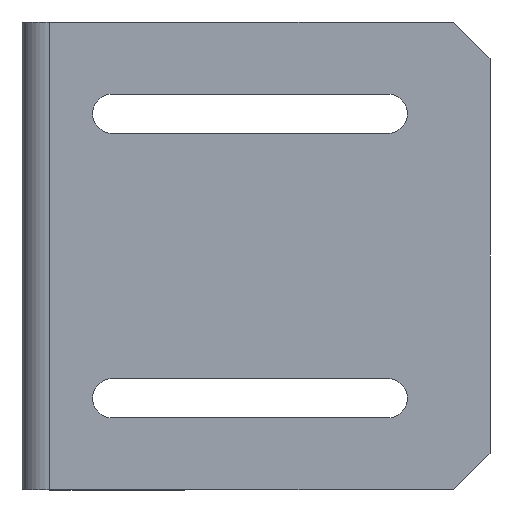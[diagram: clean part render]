
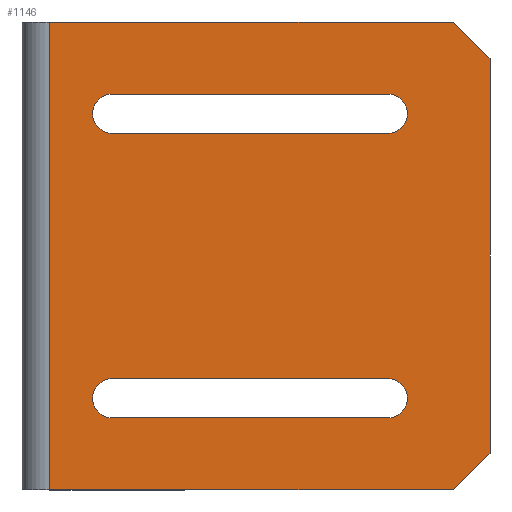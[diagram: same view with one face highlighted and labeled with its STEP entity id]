
A CAD part, front view. The second image highlights one B-rep face of the part: STEP entity #1146.
In plain terms, the highlighted planar face has unit normal (0, -1, 0).
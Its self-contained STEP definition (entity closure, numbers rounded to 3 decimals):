
#14 = AXIS2_PLACEMENT_3D ( 'NONE', #462, #977, #661 ) ;
#16 = EDGE_CURVE ( 'NONE', #1310, #1048, #421, .T. ) ;
#25 = ORIENTED_EDGE ( 'NONE', *, *, #94, .T. ) ;
#31 = ORIENTED_EDGE ( 'NONE', *, *, #666, .T. ) ;
#35 = LINE ( 'NONE', #1275, #343 ) ;
#40 = AXIS2_PLACEMENT_3D ( 'NONE', #281, #95, #489 ) ;
#49 = EDGE_CURVE ( 'NONE', #1347, #839, #553, .T. ) ;
#65 = EDGE_LOOP ( 'NONE', ( #31, #585, #251, #99, #1032 ) ) ;
#74 = LINE ( 'NONE', #179, #212 ) ;
#82 = AXIS2_PLACEMENT_3D ( 'NONE', #1192, #674, #460 ) ;
#90 = CARTESIAN_POINT ( 'NONE',  ( 39.85, 0., -12.15 ) ) ;
#91 = CARTESIAN_POINT ( 'NONE',  ( 47., 0., 0. ) ) ;
#94 = EDGE_CURVE ( 'NONE', #893, #1347, #716, .T. ) ;
#95 = DIRECTION ( 'NONE',  ( 0., 1., 0. ) ) ;
#99 = ORIENTED_EDGE ( 'NONE', *, *, #16, .T. ) ;
#104 = EDGE_CURVE ( 'NONE', #958, #626, #655, .T. ) ;
#122 = DIRECTION ( 'NONE',  ( 0., 0., 1. ) ) ;
#123 = CARTESIAN_POINT ( 'NONE',  ( 3., 0., -51. ) ) ;
#129 = ORIENTED_EDGE ( 'NONE', *, *, #264, .T. ) ;
#130 = VECTOR ( 'NONE', #135, 1000. ) ;
#133 = CARTESIAN_POINT ( 'NONE',  ( 9.85, 0., -7.85 ) ) ;
#135 = DIRECTION ( 'NONE',  ( -1., 0., 0. ) ) ;
#139 = LINE ( 'NONE', #742, #355 ) ;
#141 = CARTESIAN_POINT ( 'NONE',  ( 39.85, 0., -7.85 ) ) ;
#179 = CARTESIAN_POINT ( 'NONE',  ( 51., 0., 0. ) ) ;
#184 = ORIENTED_EDGE ( 'NONE', *, *, #1169, .T. ) ;
#186 = VERTEX_POINT ( 'NONE', #1221 ) ;
#191 = ORIENTED_EDGE ( 'NONE', *, *, #571, .T. ) ;
#194 = EDGE_CURVE ( 'NONE', #1105, #401, #641, .T. ) ;
#212 = VECTOR ( 'NONE', #917, 1000. ) ;
#213 = EDGE_CURVE ( 'NONE', #871, #617, #74, .T. ) ;
#228 = AXIS2_PLACEMENT_3D ( 'NONE', #1065, #334, #347 ) ;
#245 = VECTOR ( 'NONE', #751, 1000. ) ;
#251 = ORIENTED_EDGE ( 'NONE', *, *, #797, .T. ) ;
#264 = EDGE_CURVE ( 'NONE', #626, #893, #812, .T. ) ;
#281 = CARTESIAN_POINT ( 'NONE',  ( 9.85, 0., -10. ) ) ;
#283 = EDGE_CURVE ( 'NONE', #839, #958, #1266, .T. ) ;
#310 = DIRECTION ( 'NONE',  ( 1., 0., 0. ) ) ;
#334 = DIRECTION ( 'NONE',  ( 0., 1., 0. ) ) ;
#343 = VECTOR ( 'NONE', #744, 1000. ) ;
#347 = DIRECTION ( 'NONE',  ( -1., 0., 0. ) ) ;
#350 = AXIS2_PLACEMENT_3D ( 'NONE', #1087, #524, #1147 ) ;
#355 = VECTOR ( 'NONE', #750, 1000. ) ;
#401 = VERTEX_POINT ( 'NONE', #133 ) ;
#421 = CIRCLE ( 'NONE', #228, 2.15 ) ;
#422 = CARTESIAN_POINT ( 'NONE',  ( 9.85, 0., -43.15 ) ) ;
#430 = ORIENTED_EDGE ( 'NONE', *, *, #1248, .T. ) ;
#434 = CARTESIAN_POINT ( 'NONE',  ( 74.5, 0., -27.5 ) ) ;
#439 = FACE_OUTER_BOUND ( 'NONE', #1103, .T. ) ;
#440 = ORIENTED_EDGE ( 'NONE', *, *, #710, .T. ) ;
#460 = DIRECTION ( 'NONE',  ( 1., 0., 0. ) ) ;
#462 = CARTESIAN_POINT ( 'NONE',  ( 51., 0., -51. ) ) ;
#469 = VECTOR ( 'NONE', #1084, 1000. ) ;
#489 = DIRECTION ( 'NONE',  ( -1., 0., 0. ) ) ;
#495 = VERTEX_POINT ( 'NONE', #1355 ) ;
#515 = CARTESIAN_POINT ( 'NONE',  ( 51., 0., -51. ) ) ;
#524 = DIRECTION ( 'NONE',  ( 0., 1., 0. ) ) ;
#546 = LINE ( 'NONE', #563, #245 ) ;
#553 = LINE ( 'NONE', #1171, #469 ) ;
#563 = CARTESIAN_POINT ( 'NONE',  ( 9.85, 0., -12.15 ) ) ;
#565 = EDGE_CURVE ( 'NONE', #495, #1239, #1269, .T. ) ;
#566 = FACE_BOUND ( 'NONE', #1120, .T. ) ;
#571 = EDGE_CURVE ( 'NONE', #818, #617, #1250, .T. ) ;
#573 = VECTOR ( 'NONE', #122, 1000. ) ;
#582 = CARTESIAN_POINT ( 'NONE',  ( 9.85, 0., -38.85 ) ) ;
#585 = ORIENTED_EDGE ( 'NONE', *, *, #194, .T. ) ;
#596 = VECTOR ( 'NONE', #952, 1000. ) ;
#599 = ORIENTED_EDGE ( 'NONE', *, *, #104, .T. ) ;
#617 = VERTEX_POINT ( 'NONE', #91 ) ;
#626 = VERTEX_POINT ( 'NONE', #422 ) ;
#641 = CIRCLE ( 'NONE', #40, 2.15 ) ;
#652 = AXIS2_PLACEMENT_3D ( 'NONE', #835, #1139, #1145 ) ;
#655 = LINE ( 'NONE', #776, #130 ) ;
#661 = DIRECTION ( 'NONE',  ( 1., 0., 0. ) ) ;
#666 = EDGE_CURVE ( 'NONE', #186, #1105, #834, .T. ) ;
#673 = CARTESIAN_POINT ( 'NONE',  ( 39.85, 0., -43.15 ) ) ;
#674 = DIRECTION ( 'NONE',  ( 0., 1., 0. ) ) ;
#685 = ORIENTED_EDGE ( 'NONE', *, *, #49, .T. ) ;
#702 = ORIENTED_EDGE ( 'NONE', *, *, #565, .T. ) ;
#703 = CARTESIAN_POINT ( 'NONE',  ( 51., 0., -47. ) ) ;
#710 = EDGE_CURVE ( 'NONE', #980, #818, #765, .T. ) ;
#716 = CIRCLE ( 'NONE', #82, 2.15 ) ;
#737 = VECTOR ( 'NONE', #873, 1000. ) ;
#742 = CARTESIAN_POINT ( 'NONE',  ( 49., 0., -49. ) ) ;
#744 = DIRECTION ( 'NONE',  ( 1., 0., 0. ) ) ;
#750 = DIRECTION ( 'NONE',  ( 0.707, 0., 0.707 ) ) ;
#751 = DIRECTION ( 'NONE',  ( -1., 0., 0. ) ) ;
#765 = LINE ( 'NONE', #860, #573 ) ;
#766 = EDGE_CURVE ( 'NONE', #1048, #186, #546, .T. ) ;
#769 = AXIS2_PLACEMENT_3D ( 'NONE', #844, #882, #310 ) ;
#776 = CARTESIAN_POINT ( 'NONE',  ( 9.85, 0., -43.15 ) ) ;
#797 = EDGE_CURVE ( 'NONE', #401, #1310, #35, .T. ) ;
#812 = CIRCLE ( 'NONE', #769, 2.15 ) ;
#818 = VERTEX_POINT ( 'NONE', #1064 ) ;
#834 = CIRCLE ( 'NONE', #652, 2.15 ) ;
#835 = CARTESIAN_POINT ( 'NONE',  ( 9.85, 0., -10. ) ) ;
#839 = VERTEX_POINT ( 'NONE', #1211 ) ;
#844 = CARTESIAN_POINT ( 'NONE',  ( 9.85, 0., -41. ) ) ;
#860 = CARTESIAN_POINT ( 'NONE',  ( 51., 0., -51. ) ) ;
#871 = VERTEX_POINT ( 'NONE', #1312 ) ;
#873 = DIRECTION ( 'NONE',  ( 0., 0., -1. ) ) ;
#882 = DIRECTION ( 'NONE',  ( 0., 1., 0. ) ) ;
#893 = VERTEX_POINT ( 'NONE', #1316 ) ;
#917 = DIRECTION ( 'NONE',  ( 1., 0., 0. ) ) ;
#952 = DIRECTION ( 'NONE',  ( 1., 0., 0. ) ) ;
#958 = VERTEX_POINT ( 'NONE', #673 ) ;
#961 = DIRECTION ( 'NONE',  ( -0.707, 0., 0.707 ) ) ;
#974 = ORIENTED_EDGE ( 'NONE', *, *, #283, .T. ) ;
#977 = DIRECTION ( 'NONE',  ( 0., -1., 0. ) ) ;
#980 = VERTEX_POINT ( 'NONE', #703 ) ;
#981 = FACE_BOUND ( 'NONE', #65, .T. ) ;
#1032 = ORIENTED_EDGE ( 'NONE', *, *, #766, .T. ) ;
#1033 = CARTESIAN_POINT ( 'NONE',  ( 7.7, 0., -10. ) ) ;
#1048 = VERTEX_POINT ( 'NONE', #90 ) ;
#1064 = CARTESIAN_POINT ( 'NONE',  ( 51., 0., -4. ) ) ;
#1065 = CARTESIAN_POINT ( 'NONE',  ( 39.85, 0., -10. ) ) ;
#1073 = LINE ( 'NONE', #123, #737 ) ;
#1084 = DIRECTION ( 'NONE',  ( 1., 0., 0. ) ) ;
#1087 = CARTESIAN_POINT ( 'NONE',  ( 39.85, 0., -41. ) ) ;
#1103 = EDGE_LOOP ( 'NONE', ( #1314, #184, #702, #430, #440, #191 ) ) ;
#1105 = VERTEX_POINT ( 'NONE', #1033 ) ;
#1120 = EDGE_LOOP ( 'NONE', ( #129, #25, #685, #974, #599 ) ) ;
#1139 = DIRECTION ( 'NONE',  ( 0., 1., 0. ) ) ;
#1145 = DIRECTION ( 'NONE',  ( -1., 0., 0. ) ) ;
#1146 = ADVANCED_FACE ( 'NONE', ( #439, #981, #566 ), #1160, .T. ) ;
#1147 = DIRECTION ( 'NONE',  ( 1., 0., 0. ) ) ;
#1160 = PLANE ( 'NONE',  #14 ) ;
#1169 = EDGE_CURVE ( 'NONE', #871, #495, #1073, .T. ) ;
#1171 = CARTESIAN_POINT ( 'NONE',  ( 9.85, 0., -38.85 ) ) ;
#1174 = CARTESIAN_POINT ( 'NONE',  ( 47., 0., -51. ) ) ;
#1192 = CARTESIAN_POINT ( 'NONE',  ( 9.85, 0., -41. ) ) ;
#1211 = CARTESIAN_POINT ( 'NONE',  ( 39.85, 0., -38.85 ) ) ;
#1221 = CARTESIAN_POINT ( 'NONE',  ( 9.85, 0., -12.15 ) ) ;
#1239 = VERTEX_POINT ( 'NONE', #1174 ) ;
#1248 = EDGE_CURVE ( 'NONE', #1239, #980, #139, .T. ) ;
#1250 = LINE ( 'NONE', #434, #1353 ) ;
#1266 = CIRCLE ( 'NONE', #350, 2.15 ) ;
#1269 = LINE ( 'NONE', #515, #596 ) ;
#1275 = CARTESIAN_POINT ( 'NONE',  ( 9.85, 0., -7.85 ) ) ;
#1310 = VERTEX_POINT ( 'NONE', #141 ) ;
#1312 = CARTESIAN_POINT ( 'NONE',  ( 3., 0., 0. ) ) ;
#1314 = ORIENTED_EDGE ( 'NONE', *, *, #213, .F. ) ;
#1316 = CARTESIAN_POINT ( 'NONE',  ( 7.7, 0., -41. ) ) ;
#1347 = VERTEX_POINT ( 'NONE', #582 ) ;
#1353 = VECTOR ( 'NONE', #961, 1000. ) ;
#1355 = CARTESIAN_POINT ( 'NONE',  ( 3., 0., -51. ) ) ;
